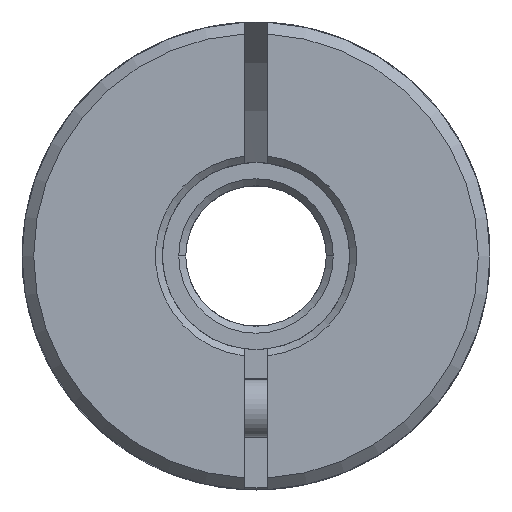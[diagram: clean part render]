
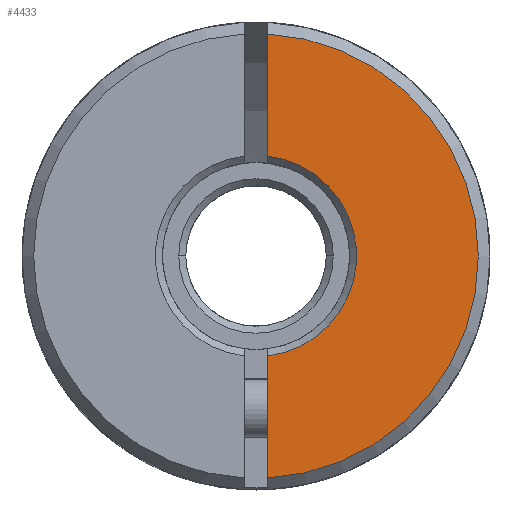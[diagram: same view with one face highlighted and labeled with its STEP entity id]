
A CAD part, front view. The second image highlights one B-rep face of the part: STEP entity #4433.
In plain terms, the highlighted planar face has unit normal (0, -1, 0).
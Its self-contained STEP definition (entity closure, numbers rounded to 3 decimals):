
#544 = EDGE_CURVE ( 'NONE', #7074, #9907, #7749, .T. ) ;
#847 = DIRECTION ( 'NONE',  ( 0., 0., -1. ) ) ;
#896 = ORIENTED_EDGE ( 'NONE', *, *, #4141, .F. ) ;
#1434 = DIRECTION ( 'NONE',  ( 0., 0., 1. ) ) ;
#1452 = ORIENTED_EDGE ( 'NONE', *, *, #6921, .T. ) ;
#1453 = AXIS2_PLACEMENT_3D ( 'NONE', #1456, #2126, #6096 ) ;
#1456 = CARTESIAN_POINT ( 'NONE',  ( 0., -33., 0. ) ) ;
#1744 = EDGE_CURVE ( 'NONE', #9275, #9907, #5722, .T. ) ;
#1939 = ORIENTED_EDGE ( 'NONE', *, *, #544, .T. ) ;
#2126 = DIRECTION ( 'NONE',  ( 0., -1., 0. ) ) ;
#2318 = EDGE_LOOP ( 'NONE', ( #896, #1939, #7908, #1452 ) ) ;
#2499 = PLANE ( 'NONE',  #5031 ) ;
#2825 = VECTOR ( 'NONE', #1434, 1000. ) ;
#3781 = CARTESIAN_POINT ( 'NONE',  ( 0.5, -33., -4.271 ) ) ;
#3965 = CARTESIAN_POINT ( 'NONE',  ( 50., -33., -12.292 ) ) ;
#4141 = EDGE_CURVE ( 'NONE', #7074, #6790, #9186, .T. ) ;
#4433 = ADVANCED_FACE ( 'NONE', ( #6191 ), #2499, .F. ) ;
#4958 = VECTOR ( 'NONE', #5934, 1000. ) ;
#5031 = AXIS2_PLACEMENT_3D ( 'NONE', #3965, #8775, #847 ) ;
#5722 = LINE ( 'NONE', #8379, #4958 ) ;
#5934 = DIRECTION ( 'NONE',  ( 0., 0., 1. ) ) ;
#6096 = DIRECTION ( 'NONE',  ( 0., 0., -1. ) ) ;
#6191 = FACE_OUTER_BOUND ( 'NONE', #2318, .T. ) ;
#6220 = CARTESIAN_POINT ( 'NONE',  ( 0.5, -33., -12.292 ) ) ;
#6653 = AXIS2_PLACEMENT_3D ( 'NONE', #9476, #7873, #9537 ) ;
#6790 = VERTEX_POINT ( 'NONE', #3781 ) ;
#6819 = CARTESIAN_POINT ( 'NONE',  ( 0.5, -33., 4.271 ) ) ;
#6884 = CIRCLE ( 'NONE', #6653, 4.3 ) ;
#6921 = EDGE_CURVE ( 'NONE', #9275, #6790, #6884, .T. ) ;
#7074 = VERTEX_POINT ( 'NONE', #7253 ) ;
#7253 = CARTESIAN_POINT ( 'NONE',  ( 0.5, -33., -9.487 ) ) ;
#7749 = CIRCLE ( 'NONE', #1453, 9.5 ) ;
#7873 = DIRECTION ( 'NONE',  ( 0., 1., 0. ) ) ;
#7908 = ORIENTED_EDGE ( 'NONE', *, *, #1744, .F. ) ;
#8379 = CARTESIAN_POINT ( 'NONE',  ( 0.5, -33., -12.292 ) ) ;
#8775 = DIRECTION ( 'NONE',  ( 0., 1., 0. ) ) ;
#8814 = CARTESIAN_POINT ( 'NONE',  ( 0.5, -33., 9.487 ) ) ;
#9186 = LINE ( 'NONE', #6220, #2825 ) ;
#9275 = VERTEX_POINT ( 'NONE', #6819 ) ;
#9476 = CARTESIAN_POINT ( 'NONE',  ( 0., -33., 0. ) ) ;
#9537 = DIRECTION ( 'NONE',  ( 0., 0., -1. ) ) ;
#9907 = VERTEX_POINT ( 'NONE', #8814 ) ;
